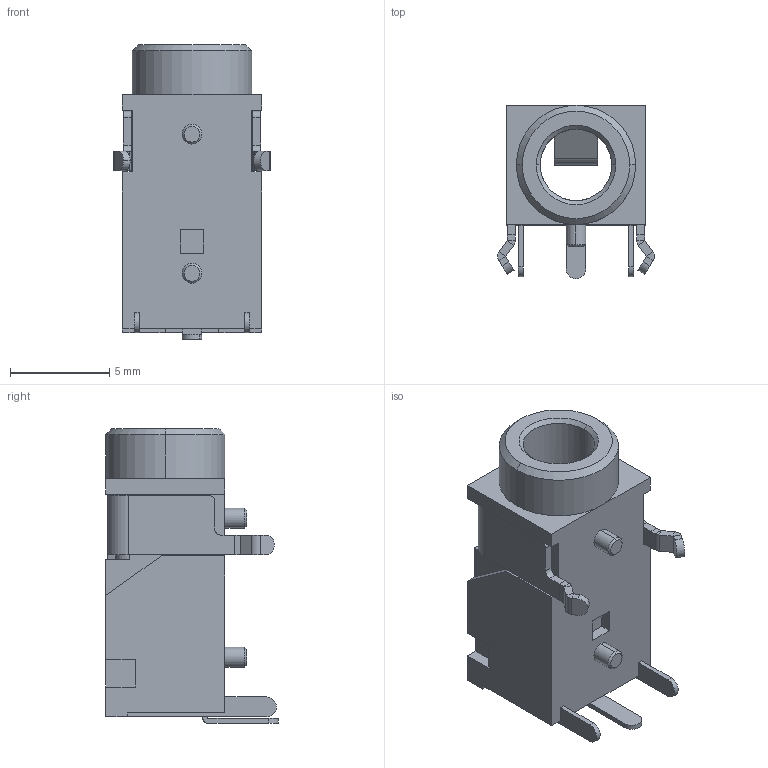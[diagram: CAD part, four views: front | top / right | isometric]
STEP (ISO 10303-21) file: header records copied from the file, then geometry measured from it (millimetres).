
FILE_DESCRIPTION (( 'STEP AP214' ), '1' );
FILE_NAME ('1503 19.STEP', '2021-05-25T06:51:12', ( '' ), ( '' ), 'SwSTEP 2.0', 'SolidWorks 2018', '' );
FILE_SCHEMA (( 'AUTOMOTIVE_DESIGN' ));
Length unit declared in the file: millimetre
Products named in the file (1): 1503 19
Bounding box: 7.9 x 8.7 x 14.82 mm (x, y, z)
Volume: 347.3 mm3; surface area: 821.5 mm2
Topology: 1 solids, 1 shells, 221 faces, 569 edges, 350 vertices
Faces by surface type: plane 171, cylinder 42, cone 8
Entity records: 7115 total; most frequent: CARTESIAN_POINT 1141, ORIENTED_EDGE 1138, DIRECTION 1113, EDGE_CURVE 569, LINE 469, VECTOR 469, VERTEX_POINT 350, AXIS2_PLACEMENT_3D 322
